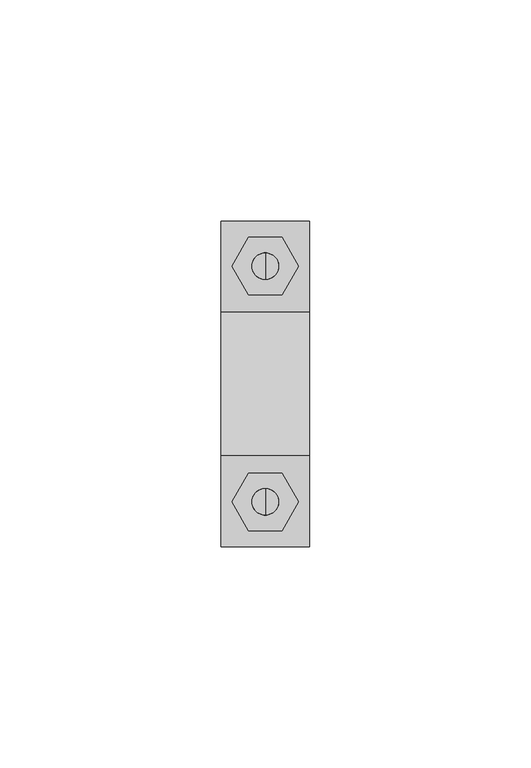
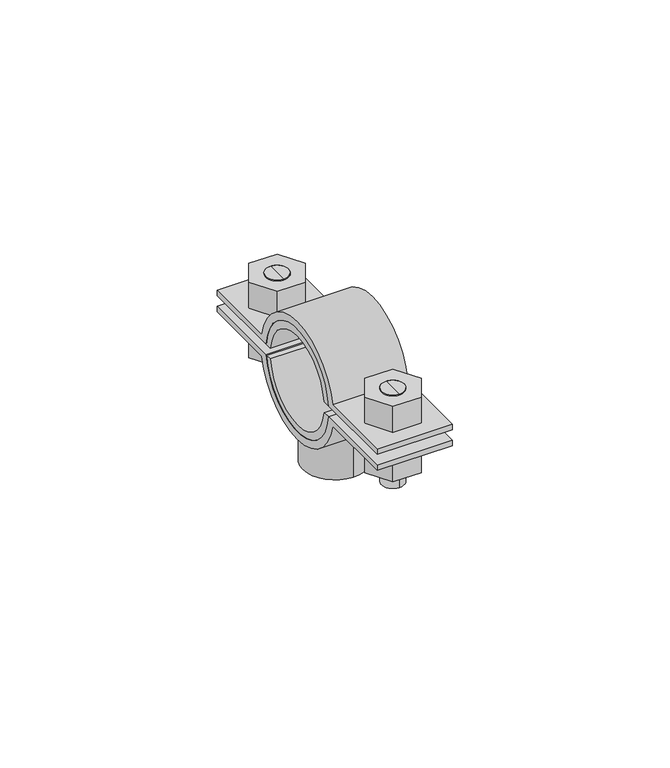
"""IFC4 building model written with IfcOpenShell, lengths in millimetres: valve geometry, Superfix DG2 Clamp (based on pipe) : Superfix DG2 Clamp (based on pipe)."""

import ifcopenshell
import ifcopenshell.guid

model = None  # the IFC model being written
_history = None  # IfcOwnerHistory: only IFC2X3 demands one
_inside = {}  # id of a spatial element -> (the spatial element, [elements in it])
_under = {}  # id of a project, library or spatial element -> (it, [spatial elements below it])
_declared = {}  # id of a project -> (the project, [libraries it declares])
_typed = {}  # id of a type object -> (the type object, [elements of that type])
_made_of = {}  # id of a material, layer set ... -> (it, [elements and type objects made of it])


def new_model(schema):
    """Start an empty IFC model of exactly this schema.

    Asked for "IFC4X3", IfcOpenShell would pick the latest addendum, in which some entities
    have other attributes; the version numbers below select the first issue.
    IFC2X3 requires an IfcOwnerHistory on every rooted entity: one is made here for all.
    """
    global model, _history
    if schema == "IFC4X3":
        model = ifcopenshell.file(schema_version=(4, 3, 0, 0))
    else:
        model = ifcopenshell.file(schema=schema)
    _inside.clear()
    _under.clear()
    _declared.clear()
    _typed.clear()
    _made_of.clear()
    _history = None
    if model.schema == "IFC2X3":
        org = make("IfcOrganization", Name="unknown")
        user = make(
            "IfcPersonAndOrganization",
            ThePerson=make("IfcPerson", FamilyName="unknown"),
            TheOrganization=org,
        )
        app = make(
            "IfcApplication",
            ApplicationDeveloper=org,
            Version="unknown",
            ApplicationFullName="unknown",
            ApplicationIdentifier="unknown",
        )
        _history = make(
            "IfcOwnerHistory",
            OwningUser=user,
            OwningApplication=app,
            ChangeAction="ADDED",
            CreationDate=0,
        )
    return model


def make(cls, **values):
    """One entity of the class cls with the attributes given. An attribute that is None is left unset."""
    return model.create_entity(
        cls, **{name: value for name, value in values.items() if value is not None}
    )


def rooted(cls, **values):
    """An entity with a GlobalId (a new one), such as an element, a storey or a relation."""
    return make(cls, GlobalId=ifcopenshell.guid.new(), OwnerHistory=_history, **values)


def si_unit(unit_type, name, prefix=None):
    """IfcSIUnit, for example si_unit("LENGTHUNIT", "METRE", prefix="MILLI")."""
    return make("IfcSIUnit", UnitType=unit_type, Prefix=prefix, Name=name)


def assignment(units):
    """IfcUnitAssignment: the units of a project."""
    return None if units is None else make("IfcUnitAssignment", Units=units)


def point(xyz):
    """IfcCartesianPoint."""
    return None if xyz is None else make("IfcCartesianPoint", Coordinates=xyz)


def direction(xyz):
    """IfcDirection."""
    return None if xyz is None else make("IfcDirection", DirectionRatios=xyz)


def frame(location, z_axis=None, x_axis=None):
    """IfcAxis2Placement3D, a coordinate frame: its origin and axes. An axis left out is left unset."""
    return make(
        "IfcAxis2Placement3D",
        Location=point(location),
        Axis=direction(z_axis),
        RefDirection=direction(x_axis),
    )


def frame_2d(location, x_axis=None):
    """IfcAxis2Placement2D, a coordinate frame in the plane: its origin and x axis."""
    return make(
        "IfcAxis2Placement2D", Location=point(location), RefDirection=direction(x_axis)
    )


def origin():
    """The frame at (0, 0, 0) with its axes left unset."""
    return frame((0.0, 0.0, 0.0))


def origin_2d():
    """The frame at (0, 0) in the plane with its x axis left unset."""
    return frame_2d((0.0, 0.0))


def place(relative_to, where):
    """IfcLocalPlacement: puts the frame where relative to a parent placement (None: the world)."""
    return make(
        "IfcLocalPlacement", PlacementRelTo=relative_to, RelativePlacement=where
    )


def context(
    kind, dimensions, precision=None, world=None, true_north=None, identifier=None
):
    """IfcGeometricRepresentationContext, for example the 3D "Model" context."""
    return make(
        "IfcGeometricRepresentationContext",
        ContextIdentifier=identifier,
        ContextType=kind,
        CoordinateSpaceDimension=dimensions,
        Precision=precision,
        WorldCoordinateSystem=world,
        TrueNorth=true_north,
    )


def project(units=None, contexts=None):
    """IfcProject with its units and contexts."""
    return rooted(
        "IfcProject",
        Name="project",
        RepresentationContexts=contexts,
        UnitsInContext=assignment(units),
    )


def spatial(cls, under=None, at=None, **own):
    """A site, building, storey or space (cls), placed at a placement, below another one or the project."""
    s = rooted(cls, ObjectPlacement=at, **own)
    if under is not None:
        _under.setdefault(under.id(), (under, []))[1].append(s)
    return s


def polyline(points):
    """IfcPolyline through the points."""
    return make("IfcPolyline", Points=[point(p) for p in points])


def circle_curve(where, radius):
    """IfcCircle in the frame where."""
    return make("IfcCircle", Position=where, Radius=radius)


def trimmed(basis, trim1, trim2, sense, master):
    """IfcTrimmedCurve: the piece of a basis curve between two trims."""
    return make(
        "IfcTrimmedCurve",
        BasisCurve=basis,
        Trim1=trim1,
        Trim2=trim2,
        SenseAgreement=sense,
        MasterRepresentation=master,
    )


def segment(curve, same_sense, transition):
    """IfcCompositeCurveSegment."""
    return make(
        "IfcCompositeCurveSegment",
        Transition=transition,
        SameSense=same_sense,
        ParentCurve=curve,
    )


def composite_curve(segments, self_intersect=None):
    """IfcCompositeCurve: segments joined end to end."""
    return make("IfcCompositeCurve", Segments=segments, SelfIntersect=self_intersect)


def outline(outer, holes=None, kind="AREA"):
    """IfcArbitraryClosedProfileDef: a profile drawn as a closed curve; with holes, ...WithVoids."""
    if holes is None:
        return make("IfcArbitraryClosedProfileDef", ProfileType=kind, OuterCurve=outer)
    return make(
        "IfcArbitraryProfileDefWithVoids",
        ProfileType=kind,
        OuterCurve=outer,
        InnerCurves=holes,
    )


def extrude(swept, where, along, depth):
    """IfcExtrudedAreaSolid: the profile swept, set in the frame where, extruded along a direction by depth."""
    return make(
        "IfcExtrudedAreaSolid",
        SweptArea=swept,
        Position=where,
        ExtrudedDirection=direction(along),
        Depth=depth,
    )


def shape(context_of_items, identifier, shape_type, items):
    """IfcShapeRepresentation: the items that make up one representation, for example the "Body"."""
    return make(
        "IfcShapeRepresentation",
        ContextOfItems=context_of_items,
        RepresentationIdentifier=identifier,
        RepresentationType=shape_type,
        Items=items,
    )


def source(mapping_origin, context_of_items, identifier, shape_type, items):
    """IfcRepresentationMap: a shape defined once, which mapped items show again and again."""
    return make(
        "IfcRepresentationMap",
        MappingOrigin=mapping_origin,
        MappedRepresentation=shape(context_of_items, identifier, shape_type, items),
    )


def transform(
    local_origin,
    x_axis=None,
    y_axis=None,
    z_axis=None,
    scale=None,
    scale2=None,
    scale3=None,
    uniform=True,
):
    """IfcCartesianTransformationOperator3D, or its non-uniform kind. x_axis, y_axis, z_axis: its Axis1, 2, 3."""
    if uniform:
        return make(
            "IfcCartesianTransformationOperator3D",
            Axis1=direction(x_axis),
            Axis2=direction(y_axis),
            LocalOrigin=point(local_origin),
            Scale=scale,
            Axis3=direction(z_axis),
        )
    return make(
        "IfcCartesianTransformationOperator3DnonUniform",
        Axis1=direction(x_axis),
        Axis2=direction(y_axis),
        LocalOrigin=point(local_origin),
        Scale=scale,
        Axis3=direction(z_axis),
        Scale2=scale2,
        Scale3=scale3,
    )


def mapped(mapping_source, mapping_target):
    """IfcMappedItem: shows the shape of a source again, moved by a transform."""
    return make(
        "IfcMappedItem", MappingSource=mapping_source, MappingTarget=mapping_target
    )


def made_of(thing, what):
    """Note that an element or type object is made of a material, layer set ...; save() writes the relation."""
    if what is not None:
        _made_of.setdefault(what.id(), (what, []))[1].append(thing)
    return thing


def element(
    cls,
    number,
    at=None,
    inside=None,
    cuts=None,
    type_object=None,
    material=None,
    context=None,
    identifier="Body",
    shape_type=None,
    held_by="IfcProductDefinitionShape",
    body=None,
    shapes=None,
    **own,
):
    """One element of the class cls, such as IfcWall. Its Tag is "e" and its number.

    at: its placement. inside: the storey or other place that contains it. cuts: it is an
    opening in that element (IfcRelVoidsElement). A single representation is given by context,
    identifier, shape_type and body (its items); several are given by shapes. held_by: the class
    of the entity that holds the representations. save() writes the other relations.
    """
    e = rooted(cls, Tag="e%d" % number, ObjectPlacement=at, **own)
    if body is not None:
        shapes = [shape(context, identifier, shape_type, body)]
    if shapes is not None:
        e.Representation = make(held_by, Representations=shapes)
    if inside is not None:
        _inside.setdefault(inside.id(), (inside, []))[1].append(e)
    if cuts is not None:
        rooted(
            "IfcRelVoidsElement", RelatingBuildingElement=cuts, RelatedOpeningElement=e
        )
    if type_object is not None:
        _typed.setdefault(type_object.id(), (type_object, []))[1].append(e)
    return made_of(e, material)


def aggregate(whole, parts):
    """IfcRelAggregates: a whole, such as a stair, and the parts it consists of."""
    return rooted("IfcRelAggregates", RelatingObject=whole, RelatedObjects=parts)


def save(model, path):
    """Write the relations noted so far, then the file.

    IfcRelAggregates (storeys below a building ...), IfcRelContainedInSpatialStructure (elements
    in a storey), IfcRelDefinesByType, IfcRelAssociatesMaterial and IfcRelDeclares: one each for
    every whole, place, type object, material and project.
    """
    for whole, parts in _under.values():
        aggregate(whole, parts)
    for where, things in _inside.values():
        rooted(
            "IfcRelContainedInSpatialStructure",
            RelatedElements=things,
            RelatingStructure=where,
        )
    for kind, things in _typed.values():
        rooted("IfcRelDefinesByType", RelatedObjects=things, RelatingType=kind)
    for what, things in _made_of.values():
        rooted("IfcRelAssociatesMaterial", RelatedObjects=things, RelatingMaterial=what)
    for by, libraries in _declared.values():
        rooted("IfcRelDeclares", RelatingContext=by, RelatedDefinitions=libraries)
    model.write(path)


def plane_surface(at):
    """IfcPlane: the flat surface through the origin of the frame at, square to its z axis."""
    return make("IfcPlane", Position=at)


def cylinder_surface(at, radius):
    """IfcCylindricalSurface: all points at the distance radius from the z axis of the frame at."""
    return make("IfcCylindricalSurface", Position=at, Radius=radius)


def advanced_brep(points, edges, surfaces, faces):
    """IfcAdvancedBrep: a solid bounded by faces that lie on surfaces and meet in shared edges.

    An edge is (start, end): straight between two places in points (the first is 0);
    or (start, end, curve); or (start, end, curve, False) where it runs against its curve.
    A face is (place in surfaces, loops), or (place, loops, False) where it looks against
    its surface's normal. A loop lists edges by number (the first is 1), with a minus sign
    where the edge is run from its end to its start. The first loop is the outer one.
    """
    corners = [point(p) for p in points]
    vertices = [make("IfcVertexPoint", VertexGeometry=c) for c in corners]
    made = []
    for start, end, *more in edges:
        made.append(
            make(
                "IfcEdgeCurve",
                EdgeStart=vertices[start],
                EdgeEnd=vertices[end],
                EdgeGeometry=more[0] if more else make("IfcPolyline", Points=[corners[start], corners[end]]),
                SameSense=more[1] if len(more) > 1 else True,
            )
        )
    hull = []
    for where, loops, *sense in faces:
        bounds = []
        for j, loop in enumerate(loops):
            ring = [make("IfcOrientedEdge", EdgeElement=made[abs(k) - 1], Orientation=k > 0) for k in loop]
            bounds.append(
                make(
                    "IfcFaceOuterBound" if j == 0 else "IfcFaceBound",
                    Bound=make("IfcEdgeLoop", EdgeList=ring),
                    Orientation=True,
                )
            )
        hull.append(make("IfcAdvancedFace", Bounds=bounds, FaceSurface=surfaces[where], SameSense=sense[0] if sense else True))
    return make("IfcAdvancedBrep", Outer=make("IfcClosedShell", CfsFaces=hull))


def valve_a1d0c0c7(model_context):
    return source(origin(), model_context, "Body", "SolidModel", [
        advanced_brep(
        [(0.0, 29.625, 342.9002332), (0.0, 23.625, 342.9002332), (0.0, 23.625, 357.0002332), (0.0, 29.625, 357.0002332), (0.0, 26.625, 342.9002332)],
        [
            (0, 1, circle_curve(frame((0.0, 26.625, 342.9002332), z_axis=(0.0, 0.0, 1.0), x_axis=(0.0, 1.0, 0.0)), 3.0)),
            (1, 2),
            (2, 3, circle_curve(frame((0.0, 26.625, 357.0002332), z_axis=(0.0, 0.0, -1.0), x_axis=(0.0, 1.0, 0.0)), 3.0)),
            (3, 0),
            (1, 0, circle_curve(frame((0.0, 26.625, 342.9002332), z_axis=(0.0, 0.0, 1.0), x_axis=(0.0, 1.0, 0.0)), 3.0)),
            (3, 2, circle_curve(frame((0.0, 26.625, 357.0002332), z_axis=(0.0, 0.0, -1.0), x_axis=(0.0, 1.0, 0.0)), 3.0)),
            (0, 4),
            (4, 1),
        ],
        [
            cylinder_surface(frame((0.0, 26.625, 356.7808426), z_axis=(0.0, 0.0, 1.0), x_axis=(0.0, 1.0, 0.0)), 3.0),
            plane_surface(frame((0.0, 26.625, 342.9002332), z_axis=(0.0, 0.0, -1.0), x_axis=(0.0, 1.0, 0.0))),
            plane_surface(frame((13.75, -36.75, 357.0002332), z_axis=(0.0, 0.0, 1.0), x_axis=(-1.0, 0.0, 0.0))),
        ],
        [
            (0, [[1, 2, 3, 4]]),
            (0, [[5, -4, 6, -2]]),
            (1, [[-1, 7, 8]]),
            (1, [[-5, -8, -7]]),
            (2, [[-3, -6]]),
        ],
    ),
        advanced_brep(
        [(0.0, 23.625, 369.1002332), (0.0, 29.625, 369.1002332), (0.0, 29.625, 360.0002332), (0.0, 23.625, 360.0002332), (0.0, 26.625, 369.1002332)],
        [
            (0, 1, circle_curve(frame((0.0, 26.625, 369.1002332), z_axis=(0.0, 0.0, -1.0), x_axis=(0.0, 1.0, 0.0)), 3.0)),
            (1, 2),
            (2, 3, circle_curve(frame((0.0, 26.625, 360.0002332), z_axis=(0.0, 0.0, 1.0), x_axis=(0.0, 1.0, 0.0)), 3.0)),
            (3, 0),
            (1, 0, circle_curve(frame((0.0, 26.625, 369.1002332), z_axis=(0.0, 0.0, -1.0), x_axis=(0.0, 1.0, 0.0)), 3.0)),
            (3, 2, circle_curve(frame((0.0, 26.625, 360.0002332), z_axis=(0.0, 0.0, 1.0), x_axis=(0.0, 1.0, 0.0)), 3.0)),
            (0, 4),
            (4, 1),
        ],
        [
            cylinder_surface(frame((0.0, 26.625, 356.7808426), z_axis=(0.0, 0.0, 1.0), x_axis=(0.0, 1.0, 0.0)), 3.0),
            plane_surface(frame((0.0, 26.625, 369.1002332), z_axis=(0.0, 0.0, 1.0), x_axis=(0.0, 1.0, 0.0))),
            plane_surface(frame((13.75, 36.75, 360.0002332), z_axis=(0.0, 0.0, -1.0), x_axis=(-1.0, 0.0, 0.0))),
        ],
        [
            (0, [[1, 2, 3, 4]]),
            (0, [[5, -4, 6, -2]]),
            (1, [[-1, 7, 8]]),
            (1, [[-5, -8, -7]]),
            (2, [[-3, -6]]),
        ],
    ),
        advanced_brep(
        [(0.0, -29.625, 369.1002332), (0.0, -23.625, 369.1002332), (0.0, -23.625, 360.0002332), (0.0, -29.625, 360.0002332), (0.0, -26.625, 369.1002332)],
        [
            (0, 1, circle_curve(frame((0.0, -26.625, 369.1002332), z_axis=(0.0, 0.0, -1.0), x_axis=(0.0, -1.0, 0.0)), 3.0)),
            (1, 2),
            (2, 3, circle_curve(frame((0.0, -26.625, 360.0002332), z_axis=(0.0, 0.0, 1.0), x_axis=(0.0, -1.0, 0.0)), 3.0)),
            (3, 0),
            (1, 0, circle_curve(frame((0.0, -26.625, 369.1002332), z_axis=(0.0, 0.0, -1.0), x_axis=(0.0, -1.0, 0.0)), 3.0)),
            (3, 2, circle_curve(frame((0.0, -26.625, 360.0002332), z_axis=(0.0, 0.0, 1.0), x_axis=(0.0, -1.0, 0.0)), 3.0)),
            (0, 4),
            (4, 1),
        ],
        [
            cylinder_surface(frame((0.0, -26.625, 356.7808426), z_axis=(0.0, 0.0, -1.0), x_axis=(0.0, -1.0, 0.0)), 3.0),
            plane_surface(frame((0.0, -26.625, 369.1002332), z_axis=(0.0, 0.0, 1.0), x_axis=(0.0, -1.0, 0.0))),
            plane_surface(frame((13.75, 36.75, 360.0002332), z_axis=(0.0, 0.0, -1.0), x_axis=(-1.0, 0.0, 0.0))),
        ],
        [
            (0, [[1, 2, 3, 4]]),
            (0, [[5, -4, 6, -2]]),
            (1, [[-1, 7, 8]]),
            (1, [[-5, -8, -7]]),
            (2, [[-3, -6]]),
        ],
    ),
        advanced_brep(
        [(0.0, -23.625, 342.9002332), (0.0, -29.625, 342.9002332), (0.0, -29.625, 357.0002332), (0.0, -23.625, 357.0002332), (0.0, -26.625, 342.9002332)],
        [
            (0, 1, circle_curve(frame((0.0, -26.625, 342.9002332), z_axis=(0.0, 0.0, 1.0), x_axis=(0.0, -1.0, 0.0)), 3.0)),
            (1, 2),
            (2, 3, circle_curve(frame((0.0, -26.625, 357.0002332), z_axis=(0.0, 0.0, -1.0), x_axis=(0.0, -1.0, 0.0)), 3.0)),
            (3, 0),
            (1, 0, circle_curve(frame((0.0, -26.625, 342.9002332), z_axis=(0.0, 0.0, 1.0), x_axis=(0.0, -1.0, 0.0)), 3.0)),
            (3, 2, circle_curve(frame((0.0, -26.625, 357.0002332), z_axis=(0.0, 0.0, -1.0), x_axis=(0.0, -1.0, 0.0)), 3.0)),
            (0, 4),
            (4, 1),
        ],
        [
            cylinder_surface(frame((0.0, -26.625, 356.7808426), z_axis=(0.0, 0.0, -1.0), x_axis=(0.0, -1.0, 0.0)), 3.0),
            plane_surface(frame((0.0, -26.625, 342.9002332), z_axis=(0.0, 0.0, -1.0), x_axis=(0.0, -1.0, 0.0))),
            plane_surface(frame((13.75, -36.75, 357.0002332), z_axis=(0.0, 0.0, 1.0), x_axis=(-1.0, 0.0, 0.0))),
        ],
        [
            (0, [[1, 2, 3, 4]]),
            (0, [[5, -4, 6, -2]]),
            (1, [[-1, 7, 8]]),
            (1, [[-5, -8, -7]]),
            (2, [[-3, -6]]),
        ],
    ),
        extrude(outline(composite_curve([segment(trimmed(circle_curve(frame_2d((0.0, 358.5002332)), 14.5), [point((-14.4222051, 357.0002332))], [point((14.4222051, 357.0002332))], True, "CARTESIAN"), True, "CONTINUOUS"), segment(polyline([(14.4222051, 357.0002332), (36.75, 357.0002332), (36.75, 355.5002332), (16.2249807, 355.5002332)]), True, "CONTINUOUS"), segment(trimmed(circle_curve(frame_2d((0.0, 358.5002332)), 16.5), [point((16.2249807, 355.5002332))], [point((-16.2249807, 355.5002332))], False, "CARTESIAN"), True, "CONTINUOUS"), segment(polyline([(-16.2249807, 355.5002332), (-36.75, 355.5002332), (-36.75, 357.0002332), (-14.4222051, 357.0002332)]), True, "CONTINUOUS")], self_intersect=False)), frame((-10.0, 0.0, 0.0), z_axis=(1.0, 0.0, 0.0), x_axis=(0.0, 1.0, 0.0)), (0.0, 0.0, 1.0), 20.0),
        extrude(outline(composite_curve([segment(trimmed(circle_curve(frame_2d((0.0, 358.5002332)), 14.5), [point((14.4222051, 360.0002332))], [point((-14.4222051, 360.0002332))], True, "CARTESIAN"), True, "CONTINUOUS"), segment(polyline([(-14.4222051, 360.0002332), (-36.75, 360.0002332), (-36.75, 361.5002332), (-16.2249807, 361.5002332)]), True, "CONTINUOUS"), segment(trimmed(circle_curve(frame_2d((0.0, 358.5002332)), 16.5), [point((-16.2249807, 361.5002332))], [point((16.2249807, 361.5002332))], False, "CARTESIAN"), True, "CONTINUOUS"), segment(polyline([(16.2249807, 361.5002332), (36.75, 361.5002332), (36.75, 360.0002332), (14.4222051, 360.0002332)]), True, "CONTINUOUS")], self_intersect=False)), frame((-10.0, 0.0, 0.0), z_axis=(1.0, 0.0, 0.0), x_axis=(0.0, 1.0, 0.0)), (0.0, 0.0, 1.0), 20.0),
        extrude(outline(polyline([(7.5055535, -26.625), (3.7527767, -33.125), (-3.7527767, -33.125), (-7.5055535, -26.625), (-3.7527767, -20.125), (3.7527767, -20.125), (7.5055535, -26.625)]), holes=[composite_curve([segment(trimmed(circle_curve(frame_2d((0.0, -26.625)), 3.0), [point((3.0, -26.625))], [point((-3.0, -26.625))], True, "CARTESIAN"), True, "CONTINUOUS"), segment(trimmed(circle_curve(frame_2d((0.0, -26.625)), 3.0), [point((-3.0, -26.625))], [point((3.0, -26.625))], True, "CARTESIAN"), True, "CONTINUOUS")], self_intersect=False)]), frame((0.0, 0.0, 361.5002332), z_axis=(0.0, 0.0, 1.0), x_axis=(1.0, 0.0, 0.0)), (0.0, 0.0, 1.0), 7.6),
        extrude(outline(polyline([(7.5055535, 26.625), (3.7527767, 20.125), (-3.7527767, 20.125), (-7.5055535, 26.625), (-3.7527767, 33.125), (3.7527767, 33.125), (7.5055535, 26.625)]), holes=[composite_curve([segment(trimmed(circle_curve(frame_2d((0.0, 26.625)), 3.0), [point((3.0, 26.625))], [point((-3.0, 26.625))], True, "CARTESIAN"), True, "CONTINUOUS"), segment(trimmed(circle_curve(frame_2d((0.0, 26.625)), 3.0), [point((-3.0, 26.625))], [point((3.0, 26.625))], True, "CARTESIAN"), True, "CONTINUOUS")], self_intersect=False)]), frame((0.0, 0.0, 361.5002332), z_axis=(0.0, 0.0, 1.0), x_axis=(1.0, 0.0, 0.0)), (0.0, 0.0, 1.0), 7.6),
        extrude(outline(polyline([(7.5055535, -26.625), (3.7527767, -33.125), (-3.7527767, -33.125), (-7.5055535, -26.625), (-3.7527767, -20.125), (3.7527767, -20.125), (7.5055535, -26.625)]), holes=[composite_curve([segment(trimmed(circle_curve(frame_2d((0.0, -26.625)), 3.0), [point((3.0, -26.625))], [point((-3.0, -26.625))], True, "CARTESIAN"), True, "CONTINUOUS"), segment(trimmed(circle_curve(frame_2d((0.0, -26.625)), 3.0), [point((-3.0, -26.625))], [point((3.0, -26.625))], True, "CARTESIAN"), True, "CONTINUOUS")], self_intersect=False)]), frame((0.0, 0.0, 347.9002332), z_axis=(0.0, 0.0, 1.0), x_axis=(1.0, 0.0, 0.0)), (0.0, 0.0, 1.0), 7.6),
        extrude(outline(polyline([(7.5055535, 26.625), (3.7527767, 20.125), (-3.7527767, 20.125), (-7.5055535, 26.625), (-3.7527767, 33.125), (3.7527767, 33.125), (7.5055535, 26.625)]), holes=[composite_curve([segment(trimmed(circle_curve(frame_2d((0.0, 26.625)), 3.0), [point((3.0, 26.625))], [point((-3.0, 26.625))], True, "CARTESIAN"), True, "CONTINUOUS"), segment(trimmed(circle_curve(frame_2d((0.0, 26.625)), 3.0), [point((-3.0, 26.625))], [point((3.0, 26.625))], True, "CARTESIAN"), True, "CONTINUOUS")], self_intersect=False)]), frame((0.0, 0.0, 347.9002332), z_axis=(0.0, 0.0, 1.0), x_axis=(1.0, 0.0, 0.0)), (0.0, 0.0, 1.0), 7.6),
        extrude(outline(composite_curve([segment(trimmed(circle_curve(origin_2d(), 8.5), [point((0.0, 8.5))], [point((0.0, -8.5))], False, "CARTESIAN"), True, "CONTINUOUS"), segment(trimmed(circle_curve(origin_2d(), 8.5), [point((0.0, -8.5))], [point((0.0, 8.5))], False, "CARTESIAN"), True, "CONTINUOUS")], self_intersect=False), holes=[composite_curve([segment(trimmed(circle_curve(origin_2d(), 5.0), [point((0.0, 5.0))], [point((0.0, -5.0))], True, "CARTESIAN"), True, "CONTINUOUS"), segment(trimmed(circle_curve(origin_2d(), 5.0), [point((0.0, -5.0))], [point((0.0, 5.0))], True, "CARTESIAN"), True, "CONTINUOUS")], self_intersect=False)]), frame((0.0, 0.0, 333.0002332), z_axis=(0.0, 0.0, 1.0), x_axis=(1.0, 0.0, 0.0)), (0.0, 0.0, 1.0), 11.5),
        extrude(outline(composite_curve([segment(trimmed(circle_curve(frame_2d((0.0, 358.5002332)), 12.5), [point((12.4096736, 360.0002332))], [point((-12.4096736, 360.0002332))], True, "CARTESIAN"), True, "CONTINUOUS"), segment(polyline([(-12.4096736, 360.0002332), (-14.4222051, 360.0002332)]), True, "CONTINUOUS"), segment(trimmed(circle_curve(frame_2d((0.0, 358.5002332)), 14.5), [point((-14.4222051, 360.0002332))], [point((14.4222051, 360.0002332))], False, "CARTESIAN"), True, "CONTINUOUS"), segment(polyline([(14.4222051, 360.0002332), (12.4096736, 360.0002332)]), True, "CONTINUOUS")], self_intersect=False)), frame((-10.0, 0.0, 0.0), z_axis=(1.0, 0.0, 0.0), x_axis=(0.0, 1.0, 0.0)), (0.0, 0.0, 1.0), 20.0),
        extrude(outline(composite_curve([segment(polyline([(12.4096736, 357.0002332), (14.4222051, 357.0002332)]), True, "CONTINUOUS"), segment(trimmed(circle_curve(frame_2d((0.0, 358.5002332)), 14.5), [point((14.4222051, 357.0002332))], [point((-14.4222051, 357.0002332))], False, "CARTESIAN"), True, "CONTINUOUS"), segment(polyline([(-14.4222051, 357.0002332), (-12.4096736, 357.0002332)]), True, "CONTINUOUS"), segment(trimmed(circle_curve(frame_2d((0.0, 358.5002332)), 12.5), [point((-12.4096736, 357.0002332))], [point((12.4096736, 357.0002332))], True, "CARTESIAN"), True, "CONTINUOUS")], self_intersect=False)), frame((-10.0, 0.0, 0.0), z_axis=(1.0, 0.0, 0.0), x_axis=(0.0, 1.0, 0.0)), (0.0, 0.0, 1.0), 20.0),
    ])


if __name__ == "__main__":
    model = new_model("IFC4")
    model_context = context("Model", 3, world=origin())
    ifc_project = project(units=[si_unit("LENGTHUNIT", "METRE", prefix="MILLI")], contexts=[model_context])
    site = spatial("IfcSite", under=ifc_project)
    building = spatial("IfcBuilding", under=site)
    placement = place(None, origin())
    valve_shape = valve_a1d0c0c7(model_context)
    element("IfcValve", 1, ObjectType="Superfix DG2 Clamp (based on pipe) : Superfix DG2 Clamp (based on pipe)", at=placement, inside=building, context=model_context, shape_type="MappedRepresentation", body=[
        mapped(valve_shape, transform((0.0, 0.0, 0.0), x_axis=(1.0, 0.0, 0.0), y_axis=(0.0, 1.0, 0.0), z_axis=(0.0, 0.0, 1.0))),
    ])
    save(model, "model.ifc")
